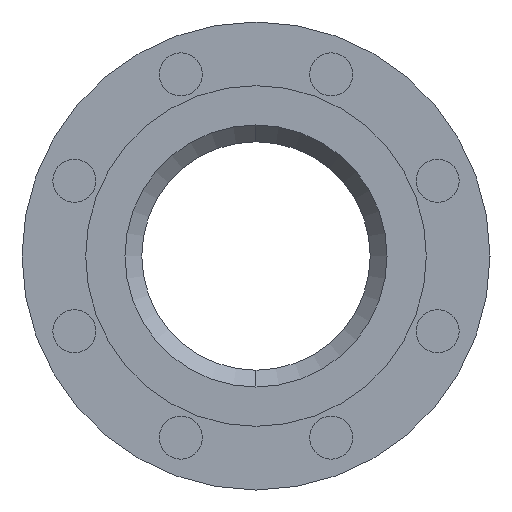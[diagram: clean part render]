
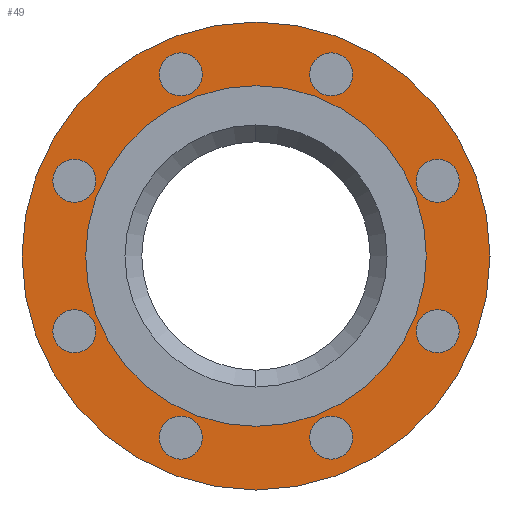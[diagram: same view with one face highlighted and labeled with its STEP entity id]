
A CAD part, left-side view. The second image highlights one B-rep face of the part: STEP entity #49.
In plain terms, the highlighted planar face has unit normal (-1, 0, 0).
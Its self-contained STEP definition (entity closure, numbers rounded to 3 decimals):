
#49=ADVANCED_FACE('',(#267,#268,#269,#270,#271,#272,#273,#274,#275,#276),#266,.T.);
#266=PLANE('',#1492);
#267=FACE_OUTER_BOUND('',#1493,.T.);
#268=FACE_BOUND('',#1494,.T.);
#269=FACE_BOUND('',#1495,.T.);
#270=FACE_BOUND('',#1496,.T.);
#271=FACE_BOUND('',#1497,.T.);
#272=FACE_BOUND('',#1498,.T.);
#273=FACE_BOUND('',#1499,.T.);
#274=FACE_BOUND('',#1500,.T.);
#275=FACE_BOUND('',#1501,.T.);
#276=FACE_BOUND('',#1502,.T.);
#1489=CARTESIAN_POINT('',(2.,-226.506,-260.));
#1490=DIRECTION('',(-1.,0.,0.));
#1491=DIRECTION('',(0.,0.,1.));
#1492=AXIS2_PLACEMENT_3D('',#1489,#1490,#1491);
#1493=EDGE_LOOP('',(#2512,#2513));
#1494=EDGE_LOOP('',(#2514,#2515));
#1495=EDGE_LOOP('',(#2516,#2517));
#1496=EDGE_LOOP('',(#2518,#2519));
#1497=EDGE_LOOP('',(#2520,#2521));
#1498=EDGE_LOOP('',(#2522,#2523));
#1499=EDGE_LOOP('',(#2524,#2525));
#1500=EDGE_LOOP('',(#2526,#2527));
#1501=EDGE_LOOP('',(#2528,#2529));
#1502=EDGE_LOOP('',(#2530,#2531));
#2512=ORIENTED_EDGE('',*,*,#3090,.T.);
#2513=ORIENTED_EDGE('',*,*,#3091,.T.);
#2514=ORIENTED_EDGE('',*,*,#3092,.F.);
#2515=ORIENTED_EDGE('',*,*,#3093,.F.);
#2516=ORIENTED_EDGE('',*,*,#3094,.F.);
#2517=ORIENTED_EDGE('',*,*,#3095,.F.);
#2518=ORIENTED_EDGE('',*,*,#3096,.F.);
#2519=ORIENTED_EDGE('',*,*,#3097,.F.);
#2520=ORIENTED_EDGE('',*,*,#3098,.F.);
#2521=ORIENTED_EDGE('',*,*,#3099,.F.);
#2522=ORIENTED_EDGE('',*,*,#3100,.F.);
#2523=ORIENTED_EDGE('',*,*,#3101,.F.);
#2524=ORIENTED_EDGE('',*,*,#3102,.F.);
#2525=ORIENTED_EDGE('',*,*,#3103,.F.);
#2526=ORIENTED_EDGE('',*,*,#3104,.F.);
#2527=ORIENTED_EDGE('',*,*,#3105,.F.);
#2528=ORIENTED_EDGE('',*,*,#3106,.F.);
#2529=ORIENTED_EDGE('',*,*,#3107,.F.);
#2530=ORIENTED_EDGE('',*,*,#3108,.F.);
#2531=ORIENTED_EDGE('',*,*,#3109,.F.);
#3090=EDGE_CURVE('',#3678,#3679,#3680,.T.);
#3091=EDGE_CURVE('',#3679,#3678,#3686,.T.);
#3092=EDGE_CURVE('',#3692,#3693,#3694,.T.);
#3093=EDGE_CURVE('',#3693,#3692,#3700,.T.);
#3094=EDGE_CURVE('',#3706,#3707,#3708,.T.);
#3095=EDGE_CURVE('',#3707,#3706,#3714,.T.);
#3096=EDGE_CURVE('',#3720,#3721,#3722,.T.);
#3097=EDGE_CURVE('',#3721,#3720,#3728,.T.);
#3098=EDGE_CURVE('',#3734,#3735,#3736,.T.);
#3099=EDGE_CURVE('',#3735,#3734,#3742,.T.);
#3100=EDGE_CURVE('',#3748,#3749,#3750,.T.);
#3101=EDGE_CURVE('',#3749,#3748,#3756,.T.);
#3102=EDGE_CURVE('',#3762,#3763,#3764,.T.);
#3103=EDGE_CURVE('',#3763,#3762,#3770,.T.);
#3104=EDGE_CURVE('',#3776,#3777,#3778,.T.);
#3105=EDGE_CURVE('',#3777,#3776,#3784,.T.);
#3106=EDGE_CURVE('',#3790,#3791,#3792,.T.);
#3107=EDGE_CURVE('',#3791,#3790,#3798,.T.);
#3108=EDGE_CURVE('',#3804,#3805,#3806,.T.);
#3109=EDGE_CURVE('',#3805,#3804,#3812,.T.);
#3678=VERTEX_POINT('',#5493);
#3679=VERTEX_POINT('',#5494);
#3680=CIRCLE('',#5498,125.);
#3686=CIRCLE('',#5502,125.);
#3692=VERTEX_POINT('',#5503);
#3693=VERTEX_POINT('',#5504);
#3694=CIRCLE('',#5508,11.5);
#3700=CIRCLE('',#5512,11.5);
#3706=VERTEX_POINT('',#5513);
#3707=VERTEX_POINT('',#5514);
#3708=CIRCLE('',#5518,11.5);
#3714=CIRCLE('',#5522,11.5);
#3720=VERTEX_POINT('',#5523);
#3721=VERTEX_POINT('',#5524);
#3722=CIRCLE('',#5528,11.5);
#3728=CIRCLE('',#5532,11.5);
#3734=VERTEX_POINT('',#5533);
#3735=VERTEX_POINT('',#5534);
#3736=CIRCLE('',#5538,11.5);
#3742=CIRCLE('',#5542,11.5);
#3748=VERTEX_POINT('',#5543);
#3749=VERTEX_POINT('',#5544);
#3750=CIRCLE('',#5548,11.5);
#3756=CIRCLE('',#5552,11.5);
#3762=VERTEX_POINT('',#5553);
#3763=VERTEX_POINT('',#5554);
#3764=CIRCLE('',#5558,11.5);
#3770=CIRCLE('',#5562,11.5);
#3776=VERTEX_POINT('',#5563);
#3777=VERTEX_POINT('',#5564);
#3778=CIRCLE('',#5568,11.5);
#3784=CIRCLE('',#5572,11.5);
#3790=VERTEX_POINT('',#5573);
#3791=VERTEX_POINT('',#5574);
#3792=CIRCLE('',#5578,11.5);
#3798=CIRCLE('',#5582,11.5);
#3804=VERTEX_POINT('',#5583);
#3805=VERTEX_POINT('',#5584);
#3806=CIRCLE('',#5588,91.);
#3812=CIRCLE('',#5592,91.);
#5493=CARTESIAN_POINT('',(2.,0.,125.));
#5494=CARTESIAN_POINT('',(2.,0.,-125.));
#5495=CARTESIAN_POINT('',(2.,0.,0.));
#5496=DIRECTION('',(-1.,0.,0.));
#5497=DIRECTION('',(0.,0.,1.));
#5498=AXIS2_PLACEMENT_3D('',#5495,#5496,#5497);
#5499=CARTESIAN_POINT('',(2.,0.,0.));
#5500=DIRECTION('',(-1.,0.,0.));
#5501=DIRECTION('',(0.,0.,1.));
#5502=AXIS2_PLACEMENT_3D('',#5499,#5500,#5501);
#5503=CARTESIAN_POINT('',(2.,-97.007,51.682));
#5504=CARTESIAN_POINT('',(2.,-97.007,28.682));
#5505=CARTESIAN_POINT('',(2.,-97.007,40.182));
#5506=DIRECTION('',(-1.,0.,0.));
#5507=DIRECTION('',(0.,0.,-1.));
#5508=AXIS2_PLACEMENT_3D('',#5505,#5506,#5507);
#5509=CARTESIAN_POINT('',(2.,-97.007,40.182));
#5510=DIRECTION('',(-1.,0.,0.));
#5511=DIRECTION('',(0.,0.,-1.));
#5512=AXIS2_PLACEMENT_3D('',#5509,#5510,#5511);
#5513=CARTESIAN_POINT('',(2.,-97.007,-28.682));
#5514=CARTESIAN_POINT('',(2.,-97.007,-51.682));
#5515=CARTESIAN_POINT('',(2.,-97.007,-40.182));
#5516=DIRECTION('',(-1.,0.,0.));
#5517=DIRECTION('',(0.,0.,-1.));
#5518=AXIS2_PLACEMENT_3D('',#5515,#5516,#5517);
#5519=CARTESIAN_POINT('',(2.,-97.007,-40.182));
#5520=DIRECTION('',(-1.,0.,0.));
#5521=DIRECTION('',(0.,0.,-1.));
#5522=AXIS2_PLACEMENT_3D('',#5519,#5520,#5521);
#5523=CARTESIAN_POINT('',(2.,-40.182,-85.507));
#5524=CARTESIAN_POINT('',(2.,-40.182,-108.507));
#5525=CARTESIAN_POINT('',(2.,-40.182,-97.007));
#5526=DIRECTION('',(-1.,0.,0.));
#5527=DIRECTION('',(0.,0.,-1.));
#5528=AXIS2_PLACEMENT_3D('',#5525,#5526,#5527);
#5529=CARTESIAN_POINT('',(2.,-40.182,-97.007));
#5530=DIRECTION('',(-1.,0.,0.));
#5531=DIRECTION('',(0.,0.,-1.));
#5532=AXIS2_PLACEMENT_3D('',#5529,#5530,#5531);
#5533=CARTESIAN_POINT('',(2.,40.182,-85.507));
#5534=CARTESIAN_POINT('',(2.,40.182,-108.507));
#5535=CARTESIAN_POINT('',(2.,40.182,-97.007));
#5536=DIRECTION('',(-1.,0.,0.));
#5537=DIRECTION('',(0.,0.,-1.));
#5538=AXIS2_PLACEMENT_3D('',#5535,#5536,#5537);
#5539=CARTESIAN_POINT('',(2.,40.182,-97.007));
#5540=DIRECTION('',(-1.,0.,0.));
#5541=DIRECTION('',(0.,0.,-1.));
#5542=AXIS2_PLACEMENT_3D('',#5539,#5540,#5541);
#5543=CARTESIAN_POINT('',(2.,97.007,-28.682));
#5544=CARTESIAN_POINT('',(2.,97.007,-51.682));
#5545=CARTESIAN_POINT('',(2.,97.007,-40.182));
#5546=DIRECTION('',(-1.,0.,0.));
#5547=DIRECTION('',(0.,0.,-1.));
#5548=AXIS2_PLACEMENT_3D('',#5545,#5546,#5547);
#5549=CARTESIAN_POINT('',(2.,97.007,-40.182));
#5550=DIRECTION('',(-1.,0.,0.));
#5551=DIRECTION('',(0.,0.,-1.));
#5552=AXIS2_PLACEMENT_3D('',#5549,#5550,#5551);
#5553=CARTESIAN_POINT('',(2.,97.007,51.682));
#5554=CARTESIAN_POINT('',(2.,97.007,28.682));
#5555=CARTESIAN_POINT('',(2.,97.007,40.182));
#5556=DIRECTION('',(-1.,0.,0.));
#5557=DIRECTION('',(0.,0.,-1.));
#5558=AXIS2_PLACEMENT_3D('',#5555,#5556,#5557);
#5559=CARTESIAN_POINT('',(2.,97.007,40.182));
#5560=DIRECTION('',(-1.,0.,0.));
#5561=DIRECTION('',(0.,0.,-1.));
#5562=AXIS2_PLACEMENT_3D('',#5559,#5560,#5561);
#5563=CARTESIAN_POINT('',(2.,40.182,108.507));
#5564=CARTESIAN_POINT('',(2.,40.182,85.507));
#5565=CARTESIAN_POINT('',(2.,40.182,97.007));
#5566=DIRECTION('',(-1.,0.,0.));
#5567=DIRECTION('',(0.,0.,-1.));
#5568=AXIS2_PLACEMENT_3D('',#5565,#5566,#5567);
#5569=CARTESIAN_POINT('',(2.,40.182,97.007));
#5570=DIRECTION('',(-1.,0.,0.));
#5571=DIRECTION('',(0.,0.,-1.));
#5572=AXIS2_PLACEMENT_3D('',#5569,#5570,#5571);
#5573=CARTESIAN_POINT('',(2.,-40.182,108.507));
#5574=CARTESIAN_POINT('',(2.,-40.182,85.507));
#5575=CARTESIAN_POINT('',(2.,-40.182,97.007));
#5576=DIRECTION('',(-1.,0.,0.));
#5577=DIRECTION('',(0.,0.,-1.));
#5578=AXIS2_PLACEMENT_3D('',#5575,#5576,#5577);
#5579=CARTESIAN_POINT('',(2.,-40.182,97.007));
#5580=DIRECTION('',(-1.,0.,0.));
#5581=DIRECTION('',(0.,0.,-1.));
#5582=AXIS2_PLACEMENT_3D('',#5579,#5580,#5581);
#5583=CARTESIAN_POINT('',(2.,0.,-91.));
#5584=CARTESIAN_POINT('',(2.,0.,91.));
#5585=CARTESIAN_POINT('',(2.,0.,0.));
#5586=DIRECTION('',(-1.,0.,0.));
#5587=DIRECTION('',(0.,0.,1.));
#5588=AXIS2_PLACEMENT_3D('',#5585,#5586,#5587);
#5589=CARTESIAN_POINT('',(2.,0.,0.));
#5590=DIRECTION('',(-1.,0.,0.));
#5591=DIRECTION('',(0.,0.,1.));
#5592=AXIS2_PLACEMENT_3D('',#5589,#5590,#5591);
